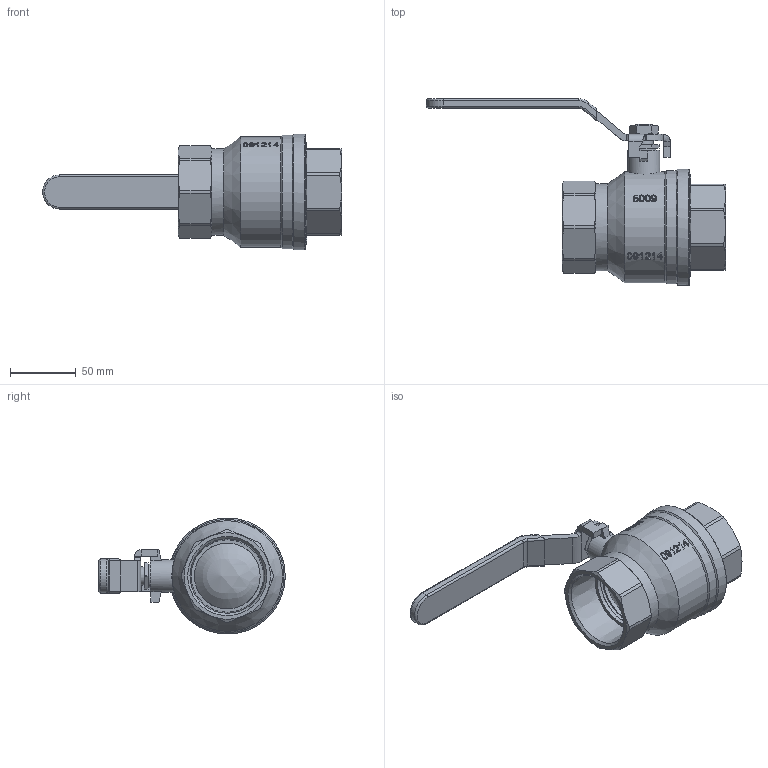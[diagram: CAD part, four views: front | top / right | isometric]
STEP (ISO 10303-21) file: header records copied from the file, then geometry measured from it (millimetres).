
FILE_DESCRIPTION((''),'2;1');
FILE_NAME('P:\Fastrack\53972_CRANE 3D\Fig100YL\100YL-2\100YL-2.stp','2011-01-27T15:07:27',('btaylor'),(''),'Autodesk Inventor 2008','Autodesk Inventor 2008','');
FILE_SCHEMA(('AUTOMOTIVE_DESIGN { 1 0 10303 214 1 1 1 1 }'));
Length unit declared in the file: millimetre
Products named in the file (1): 100YL-2
Bounding box: 227 x 141.51 x 88 mm (x, y, z)
Volume: 476924.2 mm3; surface area: 128325.9 mm2
Topology: 7 solids, 10 shells, 1808 faces, 4751 edges, 3140 vertices
Faces by surface type: plane 908, bspline 695, cylinder 114, cone 71, torus 17, sphere 3
Full cylindrical faces by diameter (mm): 14 x1, 14.1 x2, 14.5 x1, 16 x1, 16.5 x1, 18 x1, 18.3 x1, 18.5 x2, 24.5 x1, 50 x6, 60 x2, 61 x4, 66 x1, 73 x1, 79 x1, 81 x1, 81.2 x1, 84 x1, 86 x1, 88 x1
Entity records: 143491 total; most frequent: CARTESIAN_POINT 102186, ORIENTED_EDGE 9296, DIRECTION 5707, EDGE_CURVE 4648, VERTEX_POINT 3107, VECTOR 2775, LINE 2775, EDGE_LOOP 2083
